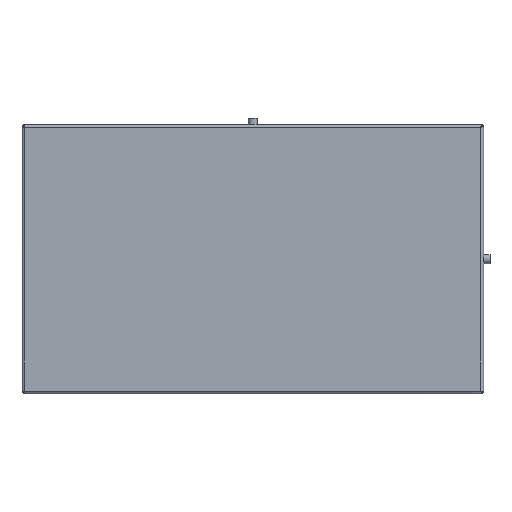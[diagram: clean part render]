
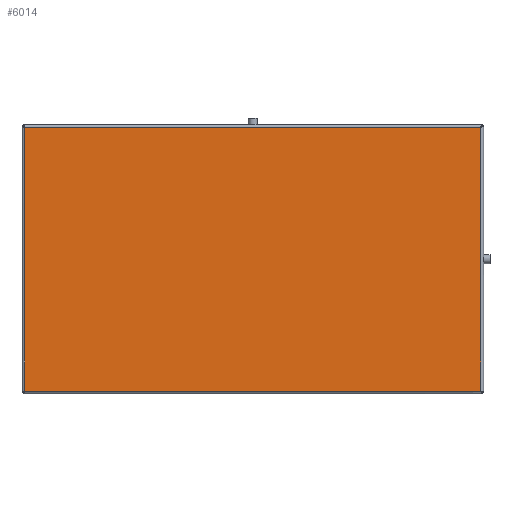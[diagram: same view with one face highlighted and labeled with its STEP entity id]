
A CAD part, front view. The second image highlights one B-rep face of the part: STEP entity #6014.
In plain terms, the highlighted planar face has unit normal (0, -1, 0).
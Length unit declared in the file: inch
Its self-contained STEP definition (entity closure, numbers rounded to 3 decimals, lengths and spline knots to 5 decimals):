
#268 = VERTEX_POINT ( 'NONE', #2025 ) ;
#526 = FACE_OUTER_BOUND ( 'NONE', #1602, .T. ) ;
#640 = CARTESIAN_POINT ( 'NONE',  ( -11.58935, 3.1645, 2.04329 ) ) ;
#923 = VERTEX_POINT ( 'NONE', #640 ) ;
#949 = CARTESIAN_POINT ( 'NONE',  ( -82.9454, 3.1645, 2.04329 ) ) ;
#1002 = ORIENTED_EDGE ( 'NONE', *, *, #3030, .T. ) ;
#1042 = DIRECTION ( 'NONE',  ( 1., 0., 0. ) ) ;
#1070 = CARTESIAN_POINT ( 'NONE',  ( -11.58935, 3.1645, 1.82864 ) ) ;
#1089 = DIRECTION ( 'NONE',  ( 0., 0., 1. ) ) ;
#1114 = DIRECTION ( 'NONE',  ( -1., 0., 0. ) ) ;
#1121 = CARTESIAN_POINT ( 'NONE',  ( -11.37471, 3.1645, 43.18469 ) ) ;
#1198 = DIRECTION ( 'NONE',  ( 0., 0., -1. ) ) ;
#1201 = CARTESIAN_POINT ( 'NONE',  ( -82.73075, 3.1645, 43.39933 ) ) ;
#1280 = LINE ( 'NONE', #1201, #7284 ) ;
#1473 = AXIS2_PLACEMENT_3D ( 'NONE', #4943, #4958, #4890 ) ;
#1602 = EDGE_LOOP ( 'NONE', ( #1675, #3991, #3252, #1002 ) ) ;
#1675 = ORIENTED_EDGE ( 'NONE', *, *, #3055, .T. ) ;
#2025 = CARTESIAN_POINT ( 'NONE',  ( -82.73075, 3.1645, 2.04329 ) ) ;
#2406 = LINE ( 'NONE', #949, #5686 ) ;
#2775 = LINE ( 'NONE', #1070, #7160 ) ;
#3030 = EDGE_CURVE ( 'NONE', #4400, #268, #1280, .T. ) ;
#3032 = EDGE_CURVE ( 'NONE', #5978, #4400, #5998, .T. ) ;
#3047 = EDGE_CURVE ( 'NONE', #923, #5978, #2775, .T. ) ;
#3055 = EDGE_CURVE ( 'NONE', #268, #923, #2406, .T. ) ;
#3252 = ORIENTED_EDGE ( 'NONE', *, *, #3032, .T. ) ;
#3991 = ORIENTED_EDGE ( 'NONE', *, *, #3047, .T. ) ;
#4400 = VERTEX_POINT ( 'NONE', #6889 ) ;
#4422 = VECTOR ( 'NONE', #1114, 39.37008 ) ;
#4890 = DIRECTION ( 'NONE',  ( 0., 0., -1. ) ) ;
#4899 = PLANE ( 'NONE',  #1473 ) ;
#4943 = CARTESIAN_POINT ( 'NONE',  ( -11.16005, 3.1645, 1.61399 ) ) ;
#4958 = DIRECTION ( 'NONE',  ( 0., -1., 0. ) ) ;
#5434 = CARTESIAN_POINT ( 'NONE',  ( -11.58935, 3.1645, 43.18469 ) ) ;
#5686 = VECTOR ( 'NONE', #1042, 39.37008 ) ;
#5978 = VERTEX_POINT ( 'NONE', #5434 ) ;
#5998 = LINE ( 'NONE', #1121, #4422 ) ;
#6014 = ADVANCED_FACE ( 'NONE', ( #526 ), #4899, .T. ) ;
#6889 = CARTESIAN_POINT ( 'NONE',  ( -82.73075, 3.1645, 43.18469 ) ) ;
#7160 = VECTOR ( 'NONE', #1089, 39.37008 ) ;
#7284 = VECTOR ( 'NONE', #1198, 39.37008 ) ;
